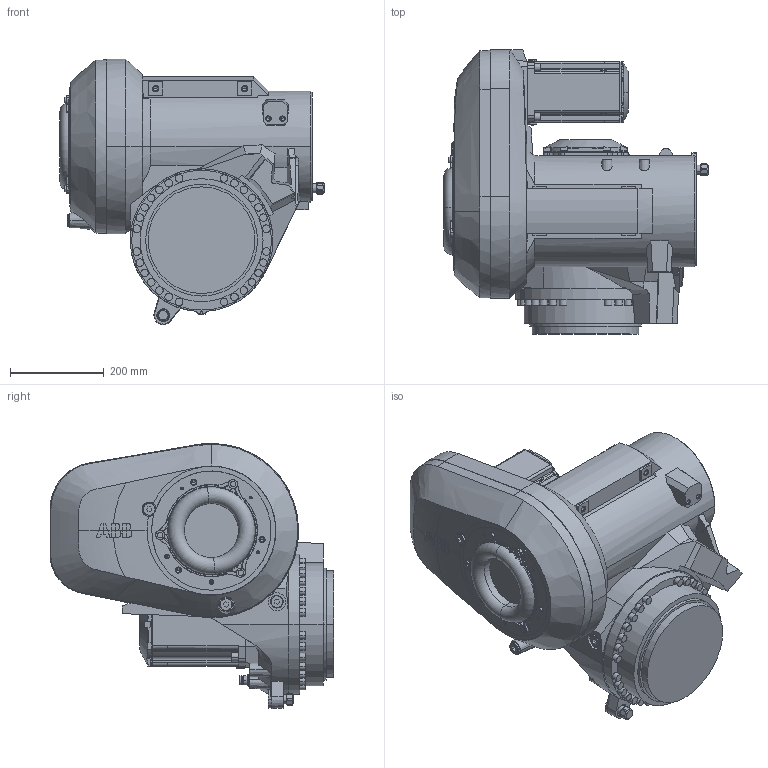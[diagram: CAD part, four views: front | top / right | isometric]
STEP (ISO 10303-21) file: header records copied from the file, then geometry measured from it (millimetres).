
FILE_DESCRIPTION (( 'STEP AP214' ), '1' );
FILE_NAME ('IRB6720-LID_215kg-250_OC_00_LINK03_CAD.step', '2026-05-26T07:18:32', ( '' ), ( '' ), 'SwSTEP 2.0', 'SolidWorks 2024', '' );
FILE_SCHEMA (( 'AUTOMOTIVE_DESIGN' ));
Length unit declared in the file: millimetre
Products named in the file (1): IRB6720-LID_215kg-250_OC_00_LINK03_CAD
Bounding box: 565 x 607.2 x 567.07 mm (x, y, z)
Volume: 50941493 mm3; surface area: 1733017.7 mm2
Topology: 1 solids, 5 shells, 1537 faces, 3959 edges, 2508 vertices
Faces by surface type: plane 704, cylinder 381, cone 301, torus 71, bspline 66, sphere 14
Entity records: 73367 total; most frequent: CARTESIAN_POINT 20514, ORIENTED_EDGE 7802, DIRECTION 7091, EDGE_CURVE 3901, AXIS2_PLACEMENT_3D 2658, VERTEX_POINT 2506, VECTOR 1775, LINE 1775
